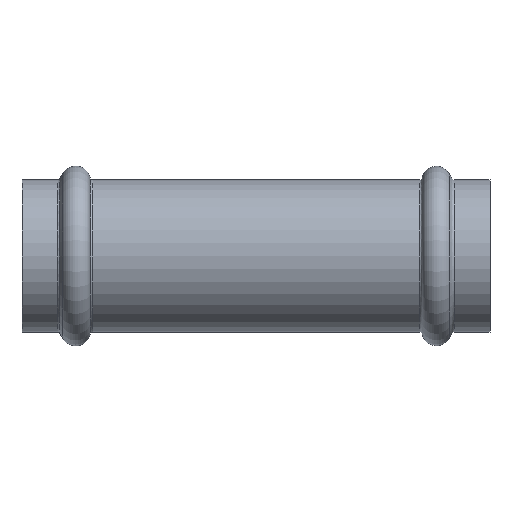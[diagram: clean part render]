
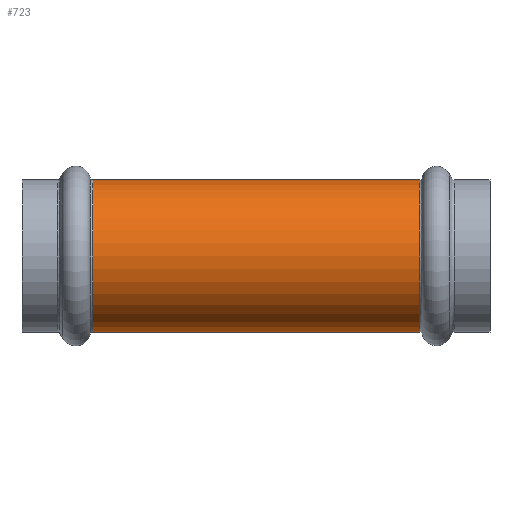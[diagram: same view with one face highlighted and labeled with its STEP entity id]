
A CAD part, front view. The second image highlights one B-rep face of the part: STEP entity #723.
In plain terms, the highlighted cylindrical face has radius 15.6 mm (diameter 31.2 mm), a full revolution.
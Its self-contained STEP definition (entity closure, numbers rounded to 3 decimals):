
#689=CARTESIAN_POINT('',(-81.529,15.6,0.0));
#690=VERTEX_POINT('',#689);
#691=CARTESIAN_POINT('',(-81.529,0.,0.0));
#692=DIRECTION('',(1.0,0.0,0.0));
#693=DIRECTION('',(0.0,1.0,0.0));
#694=AXIS2_PLACEMENT_3D('',#691,#692,#693);
#695=CIRCLE('',#694,15.6);
#696=EDGE_CURVE('',#690,#690,#695,.T.);
#704=CARTESIAN_POINT('',(-47.979,0.,0.0));
#705=DIRECTION('',(1.0,0.,0.0));
#706=DIRECTION('',(0.0,1.0,0.0));
#707=AXIS2_PLACEMENT_3D('',#704,#705,#706);
#708=CYLINDRICAL_SURFACE('',#707,15.6);
#709=CARTESIAN_POINT('',(-14.429,15.6,0.0));
#710=VERTEX_POINT('',#709);
#711=CARTESIAN_POINT('',(-14.429,0.,0.0));
#712=DIRECTION('',(1.0,0.0,0.0));
#713=DIRECTION('',(0.0,1.0,0.0));
#714=AXIS2_PLACEMENT_3D('',#711,#712,#713);
#715=CIRCLE('',#714,15.6);
#716=EDGE_CURVE('',#710,#710,#715,.T.);
#717=ORIENTED_EDGE('',*,*,#716,.F.);
#718=EDGE_LOOP('',(#717));
#719=FACE_OUTER_BOUND('',#718,.T.);
#720=ORIENTED_EDGE('',*,*,#696,.T.);
#721=EDGE_LOOP('',(#720));
#722=FACE_BOUND('',#721,.T.);
#723=ADVANCED_FACE('',(#719,#722),#708,.T.);
